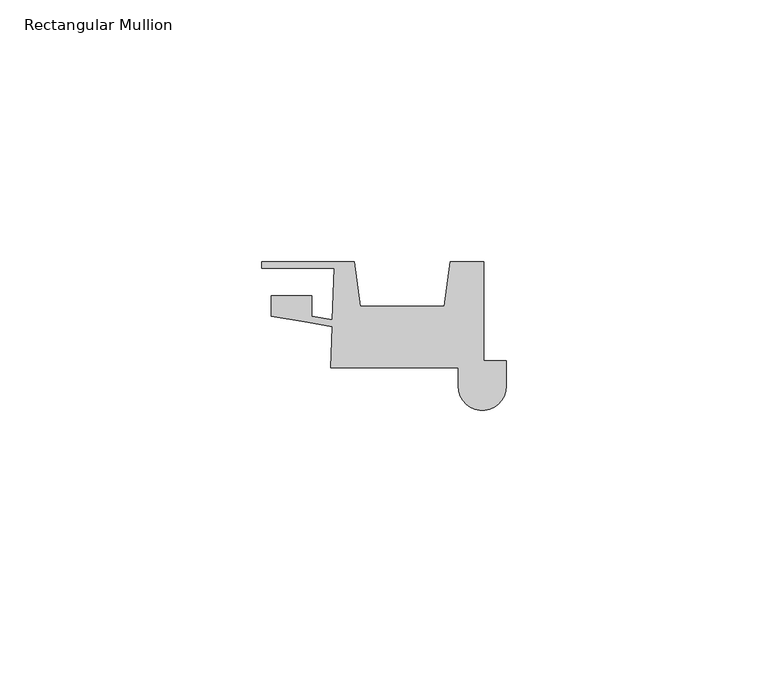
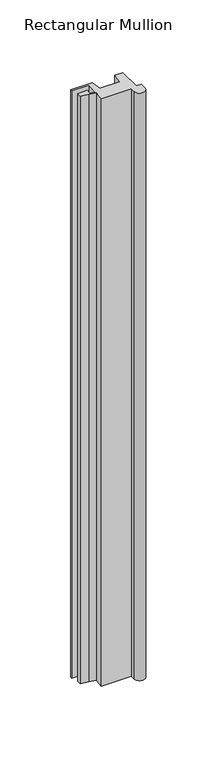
"""IFC4 building model written with IfcOpenShell, lengths in millimetres: member geometry, Rectangular Mullion : QuickPanel-Reveal_Multi-Angle-Outside-Corner-Trim-Left."""

import ifcopenshell
import ifcopenshell.guid

model = None  # the IFC model being written
_history = None  # IfcOwnerHistory: only IFC2X3 demands one
_inside = {}  # id of a spatial element -> (the spatial element, [elements in it])
_under = {}  # id of a project, library or spatial element -> (it, [spatial elements below it])
_declared = {}  # id of a project -> (the project, [libraries it declares])
_typed = {}  # id of a type object -> (the type object, [elements of that type])
_made_of = {}  # id of a material, layer set ... -> (it, [elements and type objects made of it])


def new_model(schema):
    """Start an empty IFC model of exactly this schema.

    Asked for "IFC4X3", IfcOpenShell would pick the latest addendum, in which some entities
    have other attributes; the version numbers below select the first issue.
    IFC2X3 requires an IfcOwnerHistory on every rooted entity: one is made here for all.
    """
    global model, _history
    if schema == "IFC4X3":
        model = ifcopenshell.file(schema_version=(4, 3, 0, 0))
    else:
        model = ifcopenshell.file(schema=schema)
    _inside.clear()
    _under.clear()
    _declared.clear()
    _typed.clear()
    _made_of.clear()
    _history = None
    if model.schema == "IFC2X3":
        org = make("IfcOrganization", Name="unknown")
        user = make(
            "IfcPersonAndOrganization",
            ThePerson=make("IfcPerson", FamilyName="unknown"),
            TheOrganization=org,
        )
        app = make(
            "IfcApplication",
            ApplicationDeveloper=org,
            Version="unknown",
            ApplicationFullName="unknown",
            ApplicationIdentifier="unknown",
        )
        _history = make(
            "IfcOwnerHistory",
            OwningUser=user,
            OwningApplication=app,
            ChangeAction="ADDED",
            CreationDate=0,
        )
    return model


def make(cls, **values):
    """One entity of the class cls with the attributes given. An attribute that is None is left unset."""
    return model.create_entity(
        cls, **{name: value for name, value in values.items() if value is not None}
    )


def rooted(cls, **values):
    """An entity with a GlobalId (a new one), such as an element, a storey or a relation."""
    return make(cls, GlobalId=ifcopenshell.guid.new(), OwnerHistory=_history, **values)


def si_unit(unit_type, name, prefix=None):
    """IfcSIUnit, for example si_unit("LENGTHUNIT", "METRE", prefix="MILLI")."""
    return make("IfcSIUnit", UnitType=unit_type, Prefix=prefix, Name=name)


def assignment(units):
    """IfcUnitAssignment: the units of a project."""
    return None if units is None else make("IfcUnitAssignment", Units=units)


def point(xyz):
    """IfcCartesianPoint."""
    return None if xyz is None else make("IfcCartesianPoint", Coordinates=xyz)


def direction(xyz):
    """IfcDirection."""
    return None if xyz is None else make("IfcDirection", DirectionRatios=xyz)


def frame(location, z_axis=None, x_axis=None):
    """IfcAxis2Placement3D, a coordinate frame: its origin and axes. An axis left out is left unset."""
    return make(
        "IfcAxis2Placement3D",
        Location=point(location),
        Axis=direction(z_axis),
        RefDirection=direction(x_axis),
    )


def frame_2d(location, x_axis=None):
    """IfcAxis2Placement2D, a coordinate frame in the plane: its origin and x axis."""
    return make(
        "IfcAxis2Placement2D", Location=point(location), RefDirection=direction(x_axis)
    )


def origin():
    """The frame at (0, 0, 0) with its axes left unset."""
    return frame((0.0, 0.0, 0.0))


def place(relative_to, where):
    """IfcLocalPlacement: puts the frame where relative to a parent placement (None: the world)."""
    return make(
        "IfcLocalPlacement", PlacementRelTo=relative_to, RelativePlacement=where
    )


def context(
    kind, dimensions, precision=None, world=None, true_north=None, identifier=None
):
    """IfcGeometricRepresentationContext, for example the 3D "Model" context."""
    return make(
        "IfcGeometricRepresentationContext",
        ContextIdentifier=identifier,
        ContextType=kind,
        CoordinateSpaceDimension=dimensions,
        Precision=precision,
        WorldCoordinateSystem=world,
        TrueNorth=true_north,
    )


def project(units=None, contexts=None):
    """IfcProject with its units and contexts."""
    return rooted(
        "IfcProject",
        Name="project",
        RepresentationContexts=contexts,
        UnitsInContext=assignment(units),
    )


def spatial(cls, under=None, at=None, **own):
    """A site, building, storey or space (cls), placed at a placement, below another one or the project."""
    s = rooted(cls, ObjectPlacement=at, **own)
    if under is not None:
        _under.setdefault(under.id(), (under, []))[1].append(s)
    return s


def polyline(points):
    """IfcPolyline through the points."""
    return make("IfcPolyline", Points=[point(p) for p in points])


def circle_curve(where, radius):
    """IfcCircle in the frame where."""
    return make("IfcCircle", Position=where, Radius=radius)


def trimmed(basis, trim1, trim2, sense, master):
    """IfcTrimmedCurve: the piece of a basis curve between two trims."""
    return make(
        "IfcTrimmedCurve",
        BasisCurve=basis,
        Trim1=trim1,
        Trim2=trim2,
        SenseAgreement=sense,
        MasterRepresentation=master,
    )


def segment(curve, same_sense, transition):
    """IfcCompositeCurveSegment."""
    return make(
        "IfcCompositeCurveSegment",
        Transition=transition,
        SameSense=same_sense,
        ParentCurve=curve,
    )


def composite_curve(segments, self_intersect=None):
    """IfcCompositeCurve: segments joined end to end."""
    return make("IfcCompositeCurve", Segments=segments, SelfIntersect=self_intersect)


def outline(outer, holes=None, kind="AREA"):
    """IfcArbitraryClosedProfileDef: a profile drawn as a closed curve; with holes, ...WithVoids."""
    if holes is None:
        return make("IfcArbitraryClosedProfileDef", ProfileType=kind, OuterCurve=outer)
    return make(
        "IfcArbitraryProfileDefWithVoids",
        ProfileType=kind,
        OuterCurve=outer,
        InnerCurves=holes,
    )


def extrude(swept, where, along, depth):
    """IfcExtrudedAreaSolid: the profile swept, set in the frame where, extruded along a direction by depth."""
    return make(
        "IfcExtrudedAreaSolid",
        SweptArea=swept,
        Position=where,
        ExtrudedDirection=direction(along),
        Depth=depth,
    )


def shape(context_of_items, identifier, shape_type, items):
    """IfcShapeRepresentation: the items that make up one representation, for example the "Body"."""
    return make(
        "IfcShapeRepresentation",
        ContextOfItems=context_of_items,
        RepresentationIdentifier=identifier,
        RepresentationType=shape_type,
        Items=items,
    )


def source(mapping_origin, context_of_items, identifier, shape_type, items):
    """IfcRepresentationMap: a shape defined once, which mapped items show again and again."""
    return make(
        "IfcRepresentationMap",
        MappingOrigin=mapping_origin,
        MappedRepresentation=shape(context_of_items, identifier, shape_type, items),
    )


def transform(
    local_origin,
    x_axis=None,
    y_axis=None,
    z_axis=None,
    scale=None,
    scale2=None,
    scale3=None,
    uniform=True,
):
    """IfcCartesianTransformationOperator3D, or its non-uniform kind. x_axis, y_axis, z_axis: its Axis1, 2, 3."""
    if uniform:
        return make(
            "IfcCartesianTransformationOperator3D",
            Axis1=direction(x_axis),
            Axis2=direction(y_axis),
            LocalOrigin=point(local_origin),
            Scale=scale,
            Axis3=direction(z_axis),
        )
    return make(
        "IfcCartesianTransformationOperator3DnonUniform",
        Axis1=direction(x_axis),
        Axis2=direction(y_axis),
        LocalOrigin=point(local_origin),
        Scale=scale,
        Axis3=direction(z_axis),
        Scale2=scale2,
        Scale3=scale3,
    )


def mapped(mapping_source, mapping_target):
    """IfcMappedItem: shows the shape of a source again, moved by a transform."""
    return make(
        "IfcMappedItem", MappingSource=mapping_source, MappingTarget=mapping_target
    )


def made_of(thing, what):
    """Note that an element or type object is made of a material, layer set ...; save() writes the relation."""
    if what is not None:
        _made_of.setdefault(what.id(), (what, []))[1].append(thing)
    return thing


def element(
    cls,
    number,
    at=None,
    inside=None,
    cuts=None,
    type_object=None,
    material=None,
    context=None,
    identifier="Body",
    shape_type=None,
    held_by="IfcProductDefinitionShape",
    body=None,
    shapes=None,
    **own,
):
    """One element of the class cls, such as IfcWall. Its Tag is "e" and its number.

    at: its placement. inside: the storey or other place that contains it. cuts: it is an
    opening in that element (IfcRelVoidsElement). A single representation is given by context,
    identifier, shape_type and body (its items); several are given by shapes. held_by: the class
    of the entity that holds the representations. save() writes the other relations.
    """
    e = rooted(cls, Tag="e%d" % number, ObjectPlacement=at, **own)
    if body is not None:
        shapes = [shape(context, identifier, shape_type, body)]
    if shapes is not None:
        e.Representation = make(held_by, Representations=shapes)
    if inside is not None:
        _inside.setdefault(inside.id(), (inside, []))[1].append(e)
    if cuts is not None:
        rooted(
            "IfcRelVoidsElement", RelatingBuildingElement=cuts, RelatedOpeningElement=e
        )
    if type_object is not None:
        _typed.setdefault(type_object.id(), (type_object, []))[1].append(e)
    return made_of(e, material)


def aggregate(whole, parts):
    """IfcRelAggregates: a whole, such as a stair, and the parts it consists of."""
    return rooted("IfcRelAggregates", RelatingObject=whole, RelatedObjects=parts)


def save(model, path):
    """Write the relations noted so far, then the file.

    IfcRelAggregates (storeys below a building ...), IfcRelContainedInSpatialStructure (elements
    in a storey), IfcRelDefinesByType, IfcRelAssociatesMaterial and IfcRelDeclares: one each for
    every whole, place, type object, material and project.
    """
    for whole, parts in _under.values():
        aggregate(whole, parts)
    for where, things in _inside.values():
        rooted(
            "IfcRelContainedInSpatialStructure",
            RelatedElements=things,
            RelatingStructure=where,
        )
    for kind, things in _typed.values():
        rooted("IfcRelDefinesByType", RelatedObjects=things, RelatingType=kind)
    for what, things in _made_of.values():
        rooted("IfcRelAssociatesMaterial", RelatedObjects=things, RelatingMaterial=what)
    for by, libraries in _declared.values():
        rooted("IfcRelDeclares", RelatingContext=by, RelatedDefinitions=libraries)
    model.write(path)


def rectangular_mullion_147a11e0(model_context):
    return source(origin(), model_context, "Body", "SweptSolid", [
        extrude(outline(composite_curve([segment(polyline([(-33.5174141, -8.095605), (-33.2416678, -0.1992641), (-38.4919487, 0.7008023), (-44.9272813, 1.8040245), (-44.9272813, 5.6493034), (-37.1825082, 5.6493034), (-37.1825082, 1.7648465), (-33.1969393, 1.0815922), (-32.8530122, 10.9303752), (-46.7093657, 10.9303752), (-46.7093657, 12.1803727), (-29.060393, 12.1803727), (-27.8716753, 3.7222065), (-11.8585488, 3.7222065), (-10.6698311, 12.1803727), (-4.2600515, 12.1803727), (-4.2600515, -6.6995181), (0.0, -6.6995181), (0.0, -11.6334034)]), True, "CONTINUOUS"), segment(trimmed(circle_curve(frame_2d((-4.572, -11.6334034)), 4.572), [point((0.0, -11.6334034))], [point((-9.144, -11.6334034))], False, "CARTESIAN"), True, "CONTINUOUS"), segment(polyline([(-9.144, -11.6334034), (-9.144, -8.095605), (-33.5174141, -8.095605)]), True, "CONTINUOUS")], self_intersect=False)), frame((0.0, 0.0, -506.5685975), z_axis=(0.0, 0.0, 1.0), x_axis=(1.0, 0.0, 0.0)), (0.0, 0.0, 1.0), 506.5685975),
    ])


if __name__ == "__main__":
    model = new_model("IFC4")
    model_context = context("Model", 3, world=origin())
    ifc_project = project(units=[si_unit("LENGTHUNIT", "METRE", prefix="MILLI")], contexts=[model_context])
    site = spatial("IfcSite", under=ifc_project)
    building = spatial("IfcBuilding", under=site)
    placement = place(None, origin())
    rectangular_mullion_shape = rectangular_mullion_147a11e0(model_context)
    element("IfcMember", 1, ObjectType="Rectangular Mullion : QuickPanel-Reveal_Multi-Angle-Outside-Corner-Trim-Left", at=placement, inside=building, context=model_context, shape_type="MappedRepresentation", body=[
        mapped(rectangular_mullion_shape, transform((0.0, 0.0, 0.0), x_axis=(1.0, 0.0, 0.0), y_axis=(0.0, 1.0, 0.0), z_axis=(0.0, 0.0, 1.0))),
    ])
    save(model, "model.ifc")
